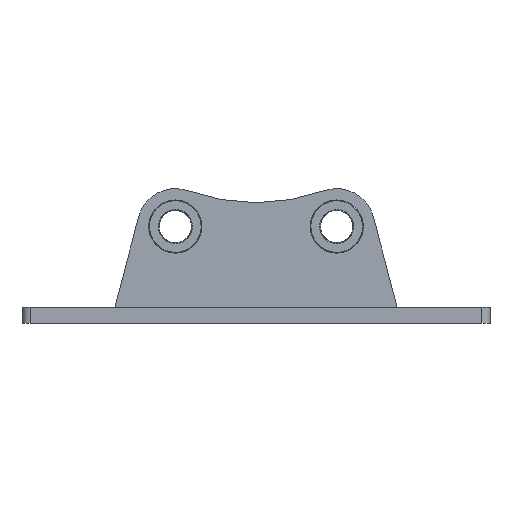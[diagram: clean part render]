
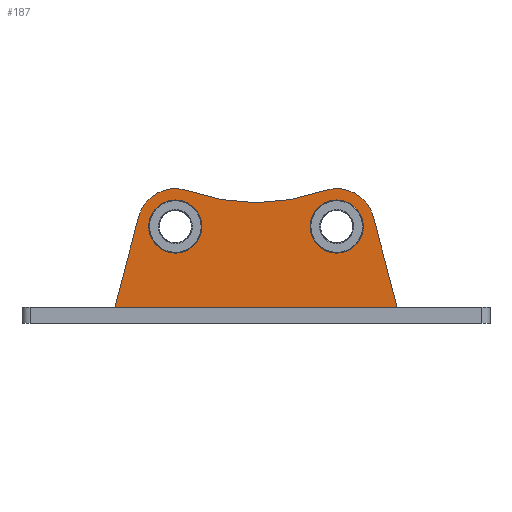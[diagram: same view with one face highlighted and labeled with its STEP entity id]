
A CAD part, front view. The second image highlights one B-rep face of the part: STEP entity #187.
In plain terms, the highlighted planar face has unit normal (0, -1, 0) as drawn and (0, 0, 1) by its records, which use the part's own axes.
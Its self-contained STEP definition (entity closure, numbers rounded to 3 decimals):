
#40 = DIRECTION ( 'NONE',  ( 0., 0., 1. ) ) ;
#124 = CARTESIAN_POINT ( 'NONE',  ( 67., 100., 5.875 ) ) ;
#149 = CIRCLE ( 'NONE', #501, 250. ) ;
#187 = ADVANCED_FACE ( 'NONE', ( #1856, #2437, #3035 ), #558, .T. ) ;
#237 = LINE ( 'NONE', #3507, #1849 ) ;
#301 = CARTESIAN_POINT ( 'NONE',  ( 175., 0., 5.875 ) ) ;
#326 = DIRECTION ( 'NONE',  ( 0., 0., 1. ) ) ;
#339 = CARTESIAN_POINT ( 'NONE',  ( -175., 0., 5.875 ) ) ;
#370 = DIRECTION ( 'NONE',  ( 1., 0., 0. ) ) ;
#372 = ORIENTED_EDGE ( 'NONE', *, *, #1824, .T. ) ;
#373 = EDGE_CURVE ( 'NONE', #1867, #2353, #2210, .T. ) ;
#374 = EDGE_LOOP ( 'NONE', ( #3091, #1640 ) ) ;
#375 = CARTESIAN_POINT ( 'NONE',  ( 175., 0., 5.875 ) ) ;
#382 = DIRECTION ( 'NONE',  ( 0., 0., 1. ) ) ;
#385 = CARTESIAN_POINT ( 'NONE',  ( -175., 0., 5.875 ) ) ;
#413 = EDGE_LOOP ( 'NONE', ( #508, #822 ) ) ;
#432 = CARTESIAN_POINT ( 'NONE',  ( -145.444, 111.993, 5.875 ) ) ;
#494 = CARTESIAN_POINT ( 'NONE',  ( -84.175, 144.256, 5.875 ) ) ;
#501 = AXIS2_PLACEMENT_3D ( 'NONE', #1752, #2594, #885 ) ;
#508 = ORIENTED_EDGE ( 'NONE', *, *, #373, .F. ) ;
#558 = PLANE ( 'NONE',  #1571 ) ;
#593 = DIRECTION ( 'NONE',  ( 1., 0., 0. ) ) ;
#653 = AXIS2_PLACEMENT_3D ( 'NONE', #1211, #3156, #2365 ) ;
#664 = DIRECTION ( 'NONE',  ( -0.255, 0.967, 0. ) ) ;
#706 = DIRECTION ( 'NONE',  ( 1., 0., 0. ) ) ;
#714 = CARTESIAN_POINT ( 'NONE',  ( -67., 100., 5.875 ) ) ;
#718 = ORIENTED_EDGE ( 'NONE', *, *, #869, .T. ) ;
#822 = ORIENTED_EDGE ( 'NONE', *, *, #2845, .F. ) ;
#827 = CARTESIAN_POINT ( 'NONE',  ( 100., 100., 5.875 ) ) ;
#858 = CARTESIAN_POINT ( 'NONE',  ( -100., 100., 5.875 ) ) ;
#869 = EDGE_CURVE ( 'NONE', #2386, #3198, #3336, .T. ) ;
#881 = DIRECTION ( 'NONE',  ( 1., 0., 0. ) ) ;
#885 = DIRECTION ( 'NONE',  ( 1., 0., 0. ) ) ;
#947 = EDGE_CURVE ( 'NONE', #1538, #2354, #237, .T. ) ;
#1023 = CIRCLE ( 'NONE', #653, 47. ) ;
#1089 = AXIS2_PLACEMENT_3D ( 'NONE', #2655, #2096, #706 ) ;
#1127 = VERTEX_POINT ( 'NONE', #494 ) ;
#1132 = CARTESIAN_POINT ( 'NONE',  ( 0., 379.659, 5.875 ) ) ;
#1211 = CARTESIAN_POINT ( 'NONE',  ( -100., 100., 5.875 ) ) ;
#1398 = EDGE_CURVE ( 'NONE', #2907, #2386, #3584, .T. ) ;
#1422 = CARTESIAN_POINT ( 'NONE',  ( -100., 100., 5.875 ) ) ;
#1478 = EDGE_CURVE ( 'NONE', #3198, #1127, #149, .T. ) ;
#1507 = VERTEX_POINT ( 'NONE', #3114 ) ;
#1512 = ORIENTED_EDGE ( 'NONE', *, *, #1478, .T. ) ;
#1538 = VERTEX_POINT ( 'NONE', #432 ) ;
#1571 = AXIS2_PLACEMENT_3D ( 'NONE', #1132, #2810, #3335 ) ;
#1592 = AXIS2_PLACEMENT_3D ( 'NONE', #1422, #326, #593 ) ;
#1640 = ORIENTED_EDGE ( 'NONE', *, *, #2376, .F. ) ;
#1694 = CARTESIAN_POINT ( 'NONE',  ( 145.444, 111.993, 5.875 ) ) ;
#1731 = EDGE_LOOP ( 'NONE', ( #1512, #2262, #1764, #372, #1757, #718 ) ) ;
#1752 = CARTESIAN_POINT ( 'NONE',  ( 0., 379.659, 5.875 ) ) ;
#1757 = ORIENTED_EDGE ( 'NONE', *, *, #1398, .T. ) ;
#1764 = ORIENTED_EDGE ( 'NONE', *, *, #947, .T. ) ;
#1824 = EDGE_CURVE ( 'NONE', #2354, #2907, #2159, .T. ) ;
#1849 = VECTOR ( 'NONE', #2670, 1000. ) ;
#1856 = FACE_BOUND ( 'NONE', #374, .T. ) ;
#1863 = VERTEX_POINT ( 'NONE', #714 ) ;
#1867 = VERTEX_POINT ( 'NONE', #124 ) ;
#1921 = DIRECTION ( 'NONE',  ( 1., 0., 0. ) ) ;
#2016 = CARTESIAN_POINT ( 'NONE',  ( 133., 100., 5.875 ) ) ;
#2032 = AXIS2_PLACEMENT_3D ( 'NONE', #858, #40, #881 ) ;
#2096 = DIRECTION ( 'NONE',  ( 0., 0., 1. ) ) ;
#2159 = LINE ( 'NONE', #385, #3109 ) ;
#2210 = CIRCLE ( 'NONE', #1089, 33. ) ;
#2262 = ORIENTED_EDGE ( 'NONE', *, *, #2563, .T. ) ;
#2353 = VERTEX_POINT ( 'NONE', #2016 ) ;
#2354 = VERTEX_POINT ( 'NONE', #339 ) ;
#2360 = EDGE_CURVE ( 'NONE', #1507, #1863, #3487, .T. ) ;
#2365 = DIRECTION ( 'NONE',  ( 1., 0., 0. ) ) ;
#2376 = EDGE_CURVE ( 'NONE', #1863, #1507, #3410, .T. ) ;
#2386 = VERTEX_POINT ( 'NONE', #1694 ) ;
#2437 = FACE_OUTER_BOUND ( 'NONE', #1731, .T. ) ;
#2451 = AXIS2_PLACEMENT_3D ( 'NONE', #2638, #382, #370 ) ;
#2563 = EDGE_CURVE ( 'NONE', #1127, #1538, #1023, .T. ) ;
#2588 = CIRCLE ( 'NONE', #2853, 33. ) ;
#2594 = DIRECTION ( 'NONE',  ( 0., 0., -1. ) ) ;
#2638 = CARTESIAN_POINT ( 'NONE',  ( 100., 100., 5.875 ) ) ;
#2655 = CARTESIAN_POINT ( 'NONE',  ( 100., 100., 5.875 ) ) ;
#2670 = DIRECTION ( 'NONE',  ( -0.255, -0.967, 0. ) ) ;
#2717 = CARTESIAN_POINT ( 'NONE',  ( 84.175, 144.256, 5.875 ) ) ;
#2772 = DIRECTION ( 'NONE',  ( 0., 0., 1. ) ) ;
#2810 = DIRECTION ( 'NONE',  ( 0., 0., 1. ) ) ;
#2845 = EDGE_CURVE ( 'NONE', #2353, #1867, #2588, .T. ) ;
#2853 = AXIS2_PLACEMENT_3D ( 'NONE', #827, #2772, #1921 ) ;
#2862 = VECTOR ( 'NONE', #664, 1000. ) ;
#2907 = VERTEX_POINT ( 'NONE', #301 ) ;
#2954 = DIRECTION ( 'NONE',  ( 1., 0., 0. ) ) ;
#3035 = FACE_BOUND ( 'NONE', #413, .T. ) ;
#3091 = ORIENTED_EDGE ( 'NONE', *, *, #2360, .F. ) ;
#3109 = VECTOR ( 'NONE', #2954, 1000. ) ;
#3114 = CARTESIAN_POINT ( 'NONE',  ( -133., 100., 5.875 ) ) ;
#3156 = DIRECTION ( 'NONE',  ( 0., 0., 1. ) ) ;
#3198 = VERTEX_POINT ( 'NONE', #2717 ) ;
#3335 = DIRECTION ( 'NONE',  ( 1., 0., 0. ) ) ;
#3336 = CIRCLE ( 'NONE', #2451, 47. ) ;
#3410 = CIRCLE ( 'NONE', #1592, 33. ) ;
#3487 = CIRCLE ( 'NONE', #2032, 33. ) ;
#3507 = CARTESIAN_POINT ( 'NONE',  ( -145.444, 111.993, 5.875 ) ) ;
#3584 = LINE ( 'NONE', #375, #2862 ) ;
